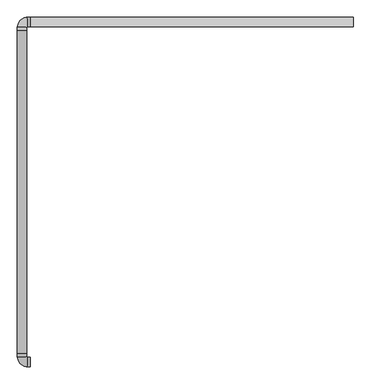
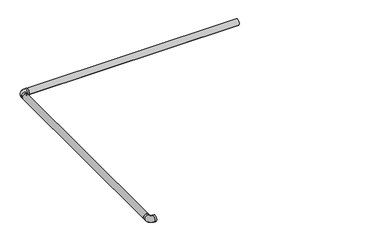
"""IFC4 building model written with IfcOpenShell, lengths in millimetres: light fixture geometry."""

from ifc_helpers import new_model, si_unit, point, frame, frame_2d, origin, place, context, project, spatial, polyline, circle_curve, ellipse_curve, trimmed, segment, composite_curve, outline, extrude, source, transform, mapped, element, save
from ifc_brep_helpers import plane_surface, cylinder_surface, revolved_surface, advanced_brep


def light_fixture_586c7e4f(model_context):
    return source(origin(), model_context, "Body", "SolidModel", [
        advanced_brep(
        [(13.25, -69.5, 52.9333396), (13.25, -69.5, 57.259212), (9.695913, -69.5, 57.259212), (9.695913, -69.5, 58.785971), (15.4937425, -69.5, 58.785971), (15.4937425, -69.5, 64.4273482), (34.5062575, -69.5, 64.4273482), (34.5062575, -69.5, 58.785971), (40.304087, -69.5, 58.785971), (40.304087, -69.5, 57.259212), (36.75, -69.5, 57.259212), (36.75, -69.5, 52.9333396), (70.5, -126.75, 52.9333396), (70.5, -103.25, 52.9333396), (70.5, -103.25, 57.259212), (70.5, -99.695913, 57.259212), (70.5, -99.695913, 58.785971), (70.5, -105.4937425, 58.785971), (70.5, -105.4937425, 64.4273482), (70.5, -124.5062575, 64.4273482), (70.5, -124.5062575, 58.785971), (70.5, -130.304087, 58.785971), (70.5, -130.304087, 57.259212), (70.5, -126.75, 57.259212), (36.75, -85.0, 52.9333396), (13.25, -85.0, 52.9333396), (36.75, -85.0, 57.259212), (40.304087, -85.0, 57.259212), (55.0, -99.695913, 57.259212), (55.0, -103.25, 57.259212), (40.304087, -85.0, 58.785971), (34.5062575, -85.0, 58.785971), (55.0, -105.4937425, 58.785971), (55.0, -99.695913, 58.785971), (34.5062575, -85.0, 64.4273482), (15.4937425, -85.0, 64.4273482), (55.0, -124.5062575, 64.4273482), (55.0, -105.4937425, 64.4273482), (15.4937425, -85.0, 58.785971), (9.695913, -85.0, 58.785971), (55.0, -130.304087, 58.785971), (55.0, -124.5062575, 58.785971), (9.695913, -85.0, 57.259212), (13.25, -85.0, 57.259212), (55.0, -126.75, 57.259212), (55.0, -130.304087, 57.259212), (55.0, -126.75, 52.9333396), (55.0, -103.25, 52.9333396)],
        [
            (0, 1),
            (1, 2),
            (2, 3),
            (3, 4),
            (4, 5),
            (5, 6),
            (6, 7),
            (7, 8),
            (8, 9),
            (9, 10),
            (10, 11),
            (11, 0, circle_curve(frame((25.0, -69.5, 75.0), z_axis=(0.0, 1.0, 0.0), x_axis=(1.0, 0.0, 0.0)), 25.0)),
            (12, 13, circle_curve(frame((70.5, -115.0, 75.0), z_axis=(1.0, 0.0, 0.0), x_axis=(0.0, 1.0, 0.0)), 25.0)),
            (13, 14),
            (14, 15),
            (15, 16),
            (16, 17),
            (17, 18),
            (18, 19),
            (19, 20),
            (20, 21),
            (21, 22),
            (22, 23),
            (23, 12),
            (11, 24),
            (24, 25, circle_curve(frame((25.0, -85.0, 75.0), z_axis=(0.0, 1.0, 0.0), x_axis=(1.0, 0.0, 0.0)), 25.0)),
            (25, 0),
            (10, 26),
            (26, 24),
            (9, 27),
            (27, 28, circle_curve(frame((55.0, -85.0, 57.259212), z_axis=(0.0, 0.0, 1.0), x_axis=(-1.0, 0.0, 0.0)), 14.695913)),
            (28, 15),
            (14, 29),
            (29, 26, circle_curve(frame((55.0, -85.0, 57.259212), z_axis=(0.0, 0.0, -1.0), x_axis=(-1.0, 0.0, 0.0)), 18.25)),
            (8, 30),
            (30, 27),
            (7, 31),
            (31, 32, circle_curve(frame((55.0, -85.0, 58.785971), z_axis=(0.0, 0.0, 1.0), x_axis=(-1.0, 0.0, 0.0)), 20.4937425)),
            (32, 17),
            (16, 33),
            (33, 30, circle_curve(frame((55.0, -85.0, 58.785971), z_axis=(0.0, 0.0, -1.0), x_axis=(-1.0, 0.0, 0.0)), 14.695913)),
            (6, 34),
            (34, 31),
            (5, 35),
            (35, 36, circle_curve(frame((55.0, -85.0, 64.4273482), z_axis=(0.0, 0.0, 1.0), x_axis=(-1.0, 0.0, 0.0)), 39.5062575)),
            (36, 19),
            (18, 37),
            (37, 34, circle_curve(frame((55.0, -85.0, 64.4273482), z_axis=(0.0, 0.0, -1.0), x_axis=(-1.0, 0.0, 0.0)), 20.4937425)),
            (4, 38),
            (38, 35),
            (3, 39),
            (39, 40, circle_curve(frame((55.0, -85.0, 58.785971), z_axis=(0.0, 0.0, 1.0), x_axis=(-1.0, 0.0, 0.0)), 45.304087)),
            (40, 21),
            (20, 41),
            (41, 38, circle_curve(frame((55.0, -85.0, 58.785971), z_axis=(0.0, 0.0, -1.0), x_axis=(-1.0, 0.0, 0.0)), 39.5062575)),
            (2, 42),
            (42, 39),
            (1, 43),
            (43, 44, circle_curve(frame((55.0, -85.0, 57.259212), z_axis=(0.0, 0.0, 1.0), x_axis=(-1.0, 0.0, 0.0)), 41.75)),
            (44, 23),
            (22, 45),
            (45, 42, circle_curve(frame((55.0, -85.0, 57.259212), z_axis=(0.0, 0.0, -1.0), x_axis=(-1.0, 0.0, 0.0)), 45.304087)),
            (25, 43),
            (46, 25, circle_curve(frame((55.0, -85.0, 52.9333396), z_axis=(0.0, 0.0, -1.0), x_axis=(-1.0, 0.0, 0.0)), 41.75)),
            (24, 47, circle_curve(frame((55.0, -85.0, 52.9333396), z_axis=(0.0, 0.0, 1.0), x_axis=(-1.0, 0.0, 0.0)), 18.25)),
            (47, 46, circle_curve(frame((55.0, -115.0, 75.0), z_axis=(-1.0, 0.0, 0.0), x_axis=(0.0, 1.0, 0.0)), 25.0)),
            (29, 47),
            (33, 28),
            (37, 32),
            (41, 36),
            (45, 40),
            (46, 44),
            (47, 13),
            (12, 46),
        ],
        [
            plane_surface(frame((25.0, -69.5, 50.0), z_axis=(0.0, 1.0, 0.0), x_axis=(0.0, 0.0, 1.0))),
            plane_surface(frame((70.5, -115.0, 50.0), z_axis=(1.0, 0.0, 0.0), x_axis=(0.0, 0.0, 1.0))),
            cylinder_surface(frame((25.0, -69.5, 75.0), z_axis=(0.0, 1.0, 0.0), x_axis=(1.0, 0.0, 0.0)), 25.0),
            plane_surface(frame((36.75, -69.5, 57.259212), z_axis=(1.0, 0.0, 0.0), x_axis=(0.0, -1.0, 0.0))),
            plane_surface(frame((40.304087, -69.5, 57.259212), z_axis=(0.0, 0.0, -1.0), x_axis=(0.0, -1.0, 0.0))),
            plane_surface(frame((40.304087, -69.5, 58.785971), z_axis=(1.0, 0.0, 0.0), x_axis=(0.0, -1.0, 0.0))),
            plane_surface(frame((34.5062575, -69.5, 58.785971), z_axis=(0.0, 0.0, 1.0), x_axis=(0.0, -1.0, 0.0))),
            plane_surface(frame((34.5062575, -69.5, 64.4273482), z_axis=(1.0, 0.0, 0.0), x_axis=(0.0, -1.0, 0.0))),
            plane_surface(frame((15.4937425, -69.5, 64.4273482), z_axis=(0.0, 0.0, 1.0), x_axis=(0.0, -1.0, 0.0))),
            plane_surface(frame((15.4937425, -69.5, 58.785971), z_axis=(-1.0, 0.0, 0.0), x_axis=(0.0, -1.0, 0.0))),
            plane_surface(frame((9.695913, -69.5, 58.785971), z_axis=(0.0, 0.0, 1.0), x_axis=(0.0, -1.0, 0.0))),
            plane_surface(frame((9.695913, -69.5, 57.259212), z_axis=(-1.0, 0.0, 0.0), x_axis=(0.0, -1.0, 0.0))),
            plane_surface(frame((13.25, -69.5, 57.259212), z_axis=(0.0, 0.0, -1.0), x_axis=(0.0, -1.0, 0.0))),
            plane_surface(frame((13.25, -69.5, 52.9333396), z_axis=(-1.0, 0.0, 0.0), x_axis=(0.0, -1.0, 0.0))),
            revolved_surface(trimmed(ellipse_curve(frame((25.0, -85.0, 75.0), z_axis=(0.0, 1.0, 0.0), x_axis=(1.0, 0.0, 0.0)), 25.0, 25.0), [point((36.75, -85.0, 52.9333396))], [point((13.25, -85.0, 52.9333396))], True, "CARTESIAN"), (55.0, -85.0, 50.0), (0.0, 0.0, 1.0)),
            revolved_surface(polyline([(36.75, -85.0, 57.259212), (36.75, -85.0, 52.9333396)]), (55.0, -85.0, 50.0), (0.0, 0.0, 1.0)),
            revolved_surface(polyline([(40.304087, -85.0, 58.785971), (40.304087, -85.0, 57.259212)]), (55.0, -85.0, 50.0), (0.0, 0.0, 1.0)),
            revolved_surface(polyline([(34.506257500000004, -85.0, 64.4273482), (34.506257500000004, -85.0, 58.785971)]), (55.0, -85.0, 50.0), (0.0, 0.0, 1.0)),
            cylinder_surface(frame((55.0, -85.0, 50.0), z_axis=(0.0, 0.0, 1.0), x_axis=(-1.0, 0.0, 0.0)), 39.5062575),
            cylinder_surface(frame((55.0, -85.0, 50.0), z_axis=(0.0, 0.0, 1.0), x_axis=(-1.0, 0.0, 0.0)), 45.304087),
            cylinder_surface(frame((55.0, -85.0, 50.0), z_axis=(0.0, 0.0, 1.0), x_axis=(-1.0, 0.0, 0.0)), 41.75),
            cylinder_surface(frame((55.0, -115.0, 75.0), z_axis=(-1.0, 0.0, 0.0), x_axis=(0.0, 1.0, 0.0)), 25.0),
            plane_surface(frame((55.0, -103.25, 57.259212), z_axis=(0.0, 1.0, 0.0), x_axis=(1.0, 0.0, 0.0))),
            plane_surface(frame((55.0, -99.695913, 58.785971), z_axis=(0.0, 1.0, 0.0), x_axis=(1.0, 0.0, 0.0))),
            plane_surface(frame((55.0, -105.4937425, 64.4273482), z_axis=(0.0, 1.0, 0.0), x_axis=(1.0, 0.0, 0.0))),
            plane_surface(frame((55.0, -124.5062575, 58.785971), z_axis=(0.0, -1.0, 0.0), x_axis=(1.0, 0.0, 0.0))),
            plane_surface(frame((55.0, -130.304087, 57.259212), z_axis=(0.0, -1.0, 0.0), x_axis=(1.0, 0.0, 0.0))),
            plane_surface(frame((55.0, -126.75, 52.9333396), z_axis=(0.0, -1.0, 0.0), x_axis=(1.0, 0.0, 0.0))),
        ],
        [
            (0, [[1, 2, 3, 4, 5, 6, 7, 8, 9, 10, 11, 12]]),
            (1, [[13, 14, 15, 16, 17, 18, 19, 20, 21, 22, 23, 24]]),
            (2, [[-12, 25, 26, 27]]),
            (3, [[-11, 28, 29, -25]]),
            (4, [[-10, 30, 31, 32, -15, 33, 34, -28]]),
            (5, [[-9, 35, 36, -30]]),
            (6, [[-8, 37, 38, 39, -17, 40, 41, -35]]),
            (7, [[-7, 42, 43, -37]]),
            (8, [[-6, 44, 45, 46, -19, 47, 48, -42]]),
            (9, [[-5, 49, 50, -44]]),
            (10, [[-4, 51, 52, 53, -21, 54, 55, -49]]),
            (11, [[-3, 56, 57, -51]]),
            (12, [[-2, 58, 59, 60, -23, 61, 62, -56]]),
            (13, [[-1, -27, 63, -58]]),
            (14, [[64, -26, 65, 66]]),
            (15, [[-65, -29, -34, 67]]),
            (16, [[-31, -36, -41, 68]]),
            (17, [[-38, -43, -48, 69]]),
            (18, [[-45, -50, -55, 70]]),
            (19, [[-52, -57, -62, 71]]),
            (20, [[-59, -63, -64, 72]]),
            (21, [[-66, 73, -13, 74]]),
            (22, [[-67, -33, -14, -73]]),
            (23, [[-68, -40, -16, -32]]),
            (24, [[-69, -47, -18, -39]]),
            (25, [[-70, -54, -20, -46]]),
            (26, [[-71, -61, -22, -53]]),
            (27, [[-72, -74, -24, -60]]),
        ],
    ),
        advanced_brep(
        [(36.75, -69.5, 52.9333396), (36.75, -69.5, 57.259212), (38.667754, -69.5, 57.259212), (38.667754, -69.5, 55.8288843), (40.617754, -69.5, 57.2440748), (40.617754, -69.5, 59.244074), (37.667754, -69.5, 59.244074), (37.667754, -69.5, 60.744074), (42.2779794, -69.5, 60.744074), (7.7220206, -69.5, 60.744074), (12.332246, -69.5, 60.744074), (12.332246, -69.5, 59.244074), (9.382246, -69.5, 59.244074), (9.382246, -69.5, 57.2440748), (11.332246, -69.5, 55.8288843), (11.332246, -69.5, 57.259212), (13.25, -69.5, 57.259212), (13.25, -69.5, 52.9333396), (70.5, -103.25, 52.9333396), (70.5, -126.75, 52.9333396), (70.5, -126.75, 57.259212), (70.5, -128.667754, 57.259212), (70.5, -128.667754, 55.8288843), (70.5, -130.617754, 57.2440748), (70.5, -130.617754, 59.244074), (70.5, -127.667754, 59.244074), (70.5, -127.667754, 60.744074), (70.5, -132.2779794, 60.744074), (70.5, -97.7220206, 60.744074), (70.5, -102.332246, 60.744074), (70.5, -102.332246, 59.244074), (70.5, -99.382246, 59.244074), (70.5, -99.382246, 57.2440748), (70.5, -101.332246, 55.8288843), (70.5, -101.332246, 57.259212), (70.5, -103.25, 57.259212), (13.25, -85.0, 52.9333396), (36.75, -85.0, 52.9333396), (13.25, -85.0, 57.259212), (11.332246, -85.0, 57.259212), (55.0, -128.667754, 57.259212), (55.0, -126.75, 57.259212), (11.332246, -85.0, 55.8288843), (9.382246, -85.0, 57.2440748), (9.382246, -85.0, 59.244074), (12.332246, -85.0, 59.244074), (55.0, -127.667754, 59.244074), (55.0, -130.617754, 59.244074), (12.332246, -85.0, 60.744074), (7.7220206, -85.0, 60.744074), (55.0, -132.2779794, 60.744074), (55.0, -127.667754, 60.744074), (42.2779794, -85.0, 60.744074), (37.667754, -85.0, 60.744074), (55.0, -102.332246, 60.744074), (55.0, -97.7220206, 60.744074), (37.667754, -85.0, 59.244074), (40.617754, -85.0, 59.244074), (55.0, -99.382246, 59.244074), (55.0, -102.332246, 59.244074), (40.617754, -85.0, 57.2440748), (38.667754, -85.0, 55.8288843), (38.667754, -85.0, 57.259212), (36.75, -85.0, 57.259212), (55.0, -103.25, 57.259212), (55.0, -101.332246, 57.259212), (55.0, -103.25, 52.9333396), (55.0, -126.75, 52.9333396), (55.0, -128.667754, 55.8288843), (55.0, -130.617754, 57.2440748), (55.0, -99.382246, 57.2440748), (55.0, -101.332246, 55.8288843)],
        [
            (0, 1),
            (1, 2),
            (2, 3),
            (3, 4),
            (4, 5),
            (5, 6),
            (6, 7),
            (7, 8),
            (8, 9, circle_curve(frame((25.0, -69.5, 75.0), z_axis=(0.0, -1.0, 0.0), x_axis=(1.0, 0.0, 0.0)), 22.4)),
            (9, 10),
            (10, 11),
            (11, 12),
            (12, 13),
            (13, 14),
            (14, 15),
            (15, 16),
            (16, 17),
            (17, 0, circle_curve(frame((25.0, -69.5, 75.0), z_axis=(0.0, 1.0, 0.0), x_axis=(1.0, 0.0, 0.0)), 25.0)),
            (18, 19, circle_curve(frame((70.5, -115.0, 75.0), z_axis=(1.0, 0.0, 0.0), x_axis=(0.0, 1.0, 0.0)), 25.0)),
            (19, 20),
            (20, 21),
            (21, 22),
            (22, 23),
            (23, 24),
            (24, 25),
            (25, 26),
            (26, 27),
            (27, 28, circle_curve(frame((70.5, -115.0, 75.0), z_axis=(-1.0, 0.0, 0.0), x_axis=(0.0, 1.0, 0.0)), 22.4)),
            (28, 29),
            (29, 30),
            (30, 31),
            (31, 32),
            (32, 33),
            (33, 34),
            (34, 35),
            (35, 18),
            (17, 36),
            (36, 37, circle_curve(frame((25.0, -85.0, 75.0), z_axis=(0.0, 1.0, 0.0), x_axis=(1.0, 0.0, 0.0)), 25.0)),
            (37, 0),
            (16, 38),
            (38, 36),
            (15, 39),
            (39, 40, circle_curve(frame((55.0, -85.0, 57.259212), z_axis=(0.0, 0.0, 1.0), x_axis=(-1.0, 0.0, 0.0)), 43.667754)),
            (40, 21),
            (20, 41),
            (41, 38, circle_curve(frame((55.0, -85.0, 57.259212), z_axis=(0.0, 0.0, -1.0), x_axis=(-1.0, 0.0, 0.0)), 41.75)),
            (14, 42),
            (42, 39),
            (13, 43),
            (43, 42),
            (12, 44),
            (44, 43),
            (11, 45),
            (45, 46, circle_curve(frame((55.0, -85.0, 59.244074), z_axis=(0.0, 0.0, 1.0), x_axis=(-1.0, 0.0, 0.0)), 42.667754)),
            (46, 25),
            (24, 47),
            (47, 44, circle_curve(frame((55.0, -85.0, 59.244074), z_axis=(0.0, 0.0, -1.0), x_axis=(-1.0, 0.0, 0.0)), 45.617754)),
            (10, 48),
            (48, 45),
            (9, 49),
            (49, 50, circle_curve(frame((55.0, -85.0, 60.744074), z_axis=(0.0, 0.0, 1.0), x_axis=(-1.0, 0.0, 0.0)), 47.2779794)),
            (50, 27),
            (26, 51),
            (51, 48, circle_curve(frame((55.0, -85.0, 60.744074), z_axis=(0.0, 0.0, -1.0), x_axis=(-1.0, 0.0, 0.0)), 42.667754)),
            (8, 52),
            (52, 49, circle_curve(frame((25.0, -85.0, 75.0), z_axis=(0.0, -1.0, 0.0), x_axis=(1.0, 0.0, 0.0)), 22.4)),
            (7, 53),
            (53, 54, circle_curve(frame((55.0, -85.0, 60.744074), z_axis=(0.0, 0.0, 1.0), x_axis=(-1.0, 0.0, 0.0)), 17.332246)),
            (54, 29),
            (28, 55),
            (55, 52, circle_curve(frame((55.0, -85.0, 60.744074), z_axis=(0.0, 0.0, -1.0), x_axis=(-1.0, 0.0, 0.0)), 12.7220206)),
            (6, 56),
            (56, 53),
            (5, 57),
            (57, 58, circle_curve(frame((55.0, -85.0, 59.244074), z_axis=(0.0, 0.0, 1.0), x_axis=(-1.0, 0.0, 0.0)), 14.382246)),
            (58, 31),
            (30, 59),
            (59, 56, circle_curve(frame((55.0, -85.0, 59.244074), z_axis=(0.0, 0.0, -1.0), x_axis=(-1.0, 0.0, 0.0)), 17.332246)),
            (4, 60),
            (60, 57),
            (3, 61),
            (61, 60),
            (2, 62),
            (62, 61),
            (1, 63),
            (63, 64, circle_curve(frame((55.0, -85.0, 57.259212), z_axis=(0.0, 0.0, 1.0), x_axis=(-1.0, 0.0, 0.0)), 18.25)),
            (64, 35),
            (34, 65),
            (65, 62, circle_curve(frame((55.0, -85.0, 57.259212), z_axis=(0.0, 0.0, -1.0), x_axis=(-1.0, 0.0, 0.0)), 16.332246)),
            (37, 63),
            (66, 37, circle_curve(frame((55.0, -85.0, 52.9333396), z_axis=(0.0, 0.0, -1.0), x_axis=(-1.0, 0.0, 0.0)), 18.25)),
            (36, 67, circle_curve(frame((55.0, -85.0, 52.9333396), z_axis=(0.0, 0.0, 1.0), x_axis=(-1.0, 0.0, 0.0)), 41.75)),
            (67, 66, circle_curve(frame((55.0, -115.0, 75.0), z_axis=(-1.0, 0.0, 0.0), x_axis=(0.0, 1.0, 0.0)), 25.0)),
            (41, 67),
            (42, 68, circle_curve(frame((55.0, -85.0, 55.8288843), z_axis=(0.0, 0.0, 1.0), x_axis=(-1.0, 0.0, 0.0)), 43.667754)),
            (68, 40),
            (43, 69, circle_curve(frame((55.0, -85.0, 57.2440748), z_axis=(0.0, 0.0, 1.0), x_axis=(-1.0, 0.0, 0.0)), 45.617754)),
            (69, 68),
            (47, 69),
            (51, 46),
            (55, 50, circle_curve(frame((55.0, -115.0, 75.0), z_axis=(1.0, 0.0, 0.0), x_axis=(0.0, 1.0, 0.0)), 22.4)),
            (59, 54),
            (60, 70, circle_curve(frame((55.0, -85.0, 57.2440748), z_axis=(0.0, 0.0, 1.0), x_axis=(-1.0, 0.0, 0.0)), 14.382246)),
            (70, 58),
            (61, 71, circle_curve(frame((55.0, -85.0, 55.8288843), z_axis=(0.0, 0.0, 1.0), x_axis=(-1.0, 0.0, 0.0)), 16.332246)),
            (71, 70),
            (65, 71),
            (66, 64),
            (67, 19),
            (18, 66),
            (68, 22),
            (69, 23),
            (70, 32),
            (71, 33),
        ],
        [
            plane_surface(frame((25.0, -69.5, 50.0), z_axis=(0.0, 1.0, 0.0), x_axis=(0.0, 0.0, 1.0))),
            plane_surface(frame((70.5, -115.0, 50.0), z_axis=(1.0, 0.0, 0.0), x_axis=(0.0, 0.0, 1.0))),
            cylinder_surface(frame((25.0, -69.5, 75.0), z_axis=(0.0, 1.0, 0.0), x_axis=(1.0, 0.0, 0.0)), 25.0),
            plane_surface(frame((13.25, -69.5, 57.259212), z_axis=(1.0, 0.0, 0.0), x_axis=(0.0, -1.0, 0.0))),
            plane_surface(frame((11.332246, -69.5, 57.259212), z_axis=(0.0, 0.0, 1.0), x_axis=(0.0, -1.0, 0.0))),
            plane_surface(frame((11.332246, -69.5, 55.8288843), z_axis=(-1.0, 0.0, 0.0), x_axis=(0.0, -1.0, 0.0))),
            plane_surface(frame((9.382246, -69.5, 57.2440748), z_axis=(0.5873593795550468, 0.0, 0.8093262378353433), x_axis=(0.0, -1.0, 0.0))),
            plane_surface(frame((9.382246, -69.5, 59.244074), z_axis=(1.0, 0.0, 0.0), x_axis=(0.0, -1.0, 0.0))),
            plane_surface(frame((12.332246, -69.5, 59.244074), z_axis=(0.0, 0.0, -1.0), x_axis=(0.0, -1.0, 0.0))),
            plane_surface(frame((12.332246, -69.5, 60.744074), z_axis=(1.0, 0.0, 0.0), x_axis=(0.0, -1.0, 0.0))),
            plane_surface(frame((7.7220206, -69.5, 60.744074), z_axis=(0.0, 0.0, 1.0), x_axis=(0.0, -1.0, 0.0))),
            revolved_surface(polyline([(47.4, -85.0, 75.0), (47.4, -69.5, 75.0)]), (25.0, -69.5, 75.0), (0.0, -1.0, 0.0)),
            plane_surface(frame((37.667754, -69.5, 60.744074), z_axis=(0.0, 0.0, 1.0), x_axis=(0.0, -1.0, 0.0))),
            plane_surface(frame((37.667754, -69.5, 59.244074), z_axis=(-1.0, 0.0, 0.0), x_axis=(0.0, -1.0, 0.0))),
            plane_surface(frame((40.617754, -69.5, 59.244074), z_axis=(0.0, 0.0, -1.0), x_axis=(0.0, -1.0, 0.0))),
            plane_surface(frame((40.617754, -69.5, 57.2440748), z_axis=(-1.0, 0.0, 0.0), x_axis=(0.0, -1.0, 0.0))),
            plane_surface(frame((38.667754, -69.5, 55.8288843), z_axis=(-0.5873593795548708, 0.0, 0.8093262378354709), x_axis=(0.0, -1.0, 0.0))),
            plane_surface(frame((38.667754, -69.5, 57.259212), z_axis=(1.0, 0.0, 0.0), x_axis=(0.0, -1.0, 0.0))),
            plane_surface(frame((36.75, -69.5, 57.259212), z_axis=(0.0, 0.0, 1.0), x_axis=(0.0, -1.0, 0.0))),
            plane_surface(frame((36.75, -69.5, 52.9333396), z_axis=(-1.0, 0.0, 0.0), x_axis=(0.0, -1.0, 0.0))),
            revolved_surface(trimmed(ellipse_curve(frame((25.0, -85.0, 75.0), z_axis=(0.0, 1.0, 0.0), x_axis=(1.0, 0.0, 0.0)), 25.0, 25.0), [point((13.25, -85.0, 52.9333396))], [point((36.75, -85.0, 52.9333396))], True, "CARTESIAN"), (55.0, -85.0, 50.0), (0.0, 0.0, 1.0)),
            revolved_surface(polyline([(13.25, -85.0, 57.259212), (13.25, -85.0, 52.9333396)]), (55.0, -85.0, 50.0), (0.0, 0.0, 1.0)),
            cylinder_surface(frame((55.0, -85.0, 50.0), z_axis=(0.0, 0.0, 1.0), x_axis=(-1.0, 0.0, 0.0)), 43.667754),
            revolved_surface(polyline([(9.382246, -85.0, 57.2440748), (11.332246, -85.0, 55.8288843)]), (55.0, -85.0, 50.0), (0.0, 0.0, 1.0)),
            revolved_surface(polyline([(9.382246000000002, -85.0, 59.244074), (9.382246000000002, -85.0, 57.2440748)]), (55.0, -85.0, 50.0), (0.0, 0.0, 1.0)),
            revolved_surface(polyline([(12.332245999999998, -85.0, 60.744074), (12.332245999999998, -85.0, 59.244074)]), (55.0, -85.0, 50.0), (0.0, 0.0, 1.0)),
            revolved_surface(trimmed(ellipse_curve(frame((25.0, -85.0, 75.0), z_axis=(0.0, -1.0, 0.0), x_axis=(1.0, 0.0, 0.0)), 22.4, 22.4), [point((42.2779794, -85.0, 60.744074))], [point((7.7220206, -85.0, 60.744074))], True, "CARTESIAN"), (55.0, -85.0, 50.0), (0.0, 0.0, 1.0)),
            cylinder_surface(frame((55.0, -85.0, 50.0), z_axis=(0.0, 0.0, 1.0), x_axis=(-1.0, 0.0, 0.0)), 17.332246),
            cylinder_surface(frame((55.0, -85.0, 50.0), z_axis=(0.0, 0.0, 1.0), x_axis=(-1.0, 0.0, 0.0)), 14.382246),
            revolved_surface(polyline([(38.667754, -85.0, 55.8288843), (40.617754, -85.0, 57.2440748)]), (55.0, -85.0, 50.0), (0.0, 0.0, 1.0)),
            revolved_surface(polyline([(38.667754, -85.0, 57.259212), (38.667754, -85.0, 55.8288843)]), (55.0, -85.0, 50.0), (0.0, 0.0, 1.0)),
            cylinder_surface(frame((55.0, -85.0, 50.0), z_axis=(0.0, 0.0, 1.0), x_axis=(-1.0, 0.0, 0.0)), 18.25),
            cylinder_surface(frame((55.0, -115.0, 75.0), z_axis=(-1.0, 0.0, 0.0), x_axis=(0.0, 1.0, 0.0)), 25.0),
            plane_surface(frame((55.0, -126.75, 57.259212), z_axis=(0.0, 1.0, 0.0), x_axis=(1.0, 0.0, 0.0))),
            plane_surface(frame((55.0, -128.667754, 55.8288843), z_axis=(0.0, -1.0, 0.0), x_axis=(1.0, 0.0, 0.0))),
            plane_surface(frame((55.0, -130.617754, 57.2440748), z_axis=(0.0, 0.5873593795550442, 0.8093262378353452), x_axis=(1.0, 0.0, 0.0))),
            plane_surface(frame((55.0, -130.617754, 59.244074), z_axis=(0.0, 1.0, 0.0), x_axis=(1.0, 0.0, 0.0))),
            plane_surface(frame((55.0, -127.667754, 60.744074), z_axis=(0.0, 1.0, 0.0), x_axis=(1.0, 0.0, 0.0))),
            revolved_surface(polyline([(70.5, -92.6, 75.0), (55.0, -92.6, 75.0)]), (55.0, -115.0, 75.0), (1.0, 0.0, 0.0)),
            plane_surface(frame((55.0, -102.332246, 59.244074), z_axis=(0.0, -1.0, 0.0), x_axis=(1.0, 0.0, 0.0))),
            plane_surface(frame((55.0, -99.382246, 57.2440748), z_axis=(0.0, -1.0, 0.0), x_axis=(1.0, 0.0, 0.0))),
            plane_surface(frame((55.0, -101.332246, 55.8288843), z_axis=(0.0, -0.5873593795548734, 0.809326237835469), x_axis=(1.0, 0.0, 0.0))),
            plane_surface(frame((55.0, -101.332246, 57.259212), z_axis=(0.0, 1.0, 0.0), x_axis=(1.0, 0.0, 0.0))),
            plane_surface(frame((55.0, -103.25, 52.9333396), z_axis=(0.0, -1.0, 0.0), x_axis=(1.0, 0.0, 0.0))),
        ],
        [
            (0, [[1, 2, 3, 4, 5, 6, 7, 8, 9, 10, 11, 12, 13, 14, 15, 16, 17, 18]]),
            (1, [[19, 20, 21, 22, 23, 24, 25, 26, 27, 28, 29, 30, 31, 32, 33, 34, 35, 36]]),
            (2, [[-18, 37, 38, 39]]),
            (3, [[-17, 40, 41, -37]]),
            (4, [[-16, 42, 43, 44, -21, 45, 46, -40]]),
            (5, [[-15, 47, 48, -42]]),
            (6, [[-14, 49, 50, -47]]),
            (7, [[-13, 51, 52, -49]]),
            (8, [[-12, 53, 54, 55, -25, 56, 57, -51]]),
            (9, [[-11, 58, 59, -53]]),
            (10, [[-10, 60, 61, 62, -27, 63, 64, -58]]),
            (11, [[-9, 65, 66, -60]]),
            (12, [[-8, 67, 68, 69, -29, 70, 71, -65]]),
            (13, [[-7, 72, 73, -67]]),
            (14, [[-6, 74, 75, 76, -31, 77, 78, -72]]),
            (15, [[-5, 79, 80, -74]]),
            (16, [[-4, 81, 82, -79]]),
            (17, [[-3, 83, 84, -81]]),
            (18, [[-2, 85, 86, 87, -35, 88, 89, -83]]),
            (19, [[-1, -39, 90, -85]]),
            (20, [[91, -38, 92, 93]]),
            (21, [[-92, -41, -46, 94]]),
            (22, [[-43, -48, 95, 96]]),
            (23, [[-95, -50, 97, 98]]),
            (24, [[-97, -52, -57, 99]]),
            (25, [[-54, -59, -64, 100]]),
            (26, [[-61, -66, -71, 101]]),
            (27, [[-68, -73, -78, 102]]),
            (28, [[-75, -80, 103, 104]]),
            (29, [[-103, -82, 105, 106]]),
            (30, [[-105, -84, -89, 107]]),
            (31, [[-86, -90, -91, 108]]),
            (32, [[-93, 109, -19, 110]]),
            (33, [[-94, -45, -20, -109]]),
            (34, [[-96, 111, -22, -44]]),
            (35, [[-98, 112, -23, -111]]),
            (36, [[-99, -56, -24, -112]]),
            (37, [[-100, -63, -26, -55]]),
            (38, [[-101, -70, -28, -62]]),
            (39, [[-102, -77, -30, -69]]),
            (40, [[-104, 113, -32, -76]]),
            (41, [[-106, 114, -33, -113]]),
            (42, [[-107, -88, -34, -114]]),
            (43, [[-108, -110, -36, -87]]),
        ],
    ),
        advanced_brep(
        [(13.25, 1700.5, 52.9333396), (36.75, 1700.5, 52.9333396), (36.75, 1700.5, 57.259212), (40.304087, 1700.5, 57.259212), (40.304087, 1700.5, 58.785971), (34.5062575, 1700.5, 58.785971), (34.5062575, 1700.5, 64.4273482), (15.4937425, 1700.5, 64.4273482), (15.4937425, 1700.5, 58.785971), (9.695913, 1700.5, 58.785971), (9.695913, 1700.5, 57.259212), (13.25, 1700.5, 57.259212), (70.5, 1757.75, 52.9333396), (70.5, 1757.75, 57.259212), (70.5, 1761.304087, 57.259212), (70.5, 1761.304087, 58.785971), (70.5, 1755.5062575, 58.785971), (70.5, 1755.5062575, 64.4273482), (70.5, 1736.4937425, 64.4273482), (70.5, 1736.4937425, 58.785971), (70.5, 1730.695913, 58.785971), (70.5, 1730.695913, 57.259212), (70.5, 1734.25, 57.259212), (70.5, 1734.25, 52.9333396), (13.25, 1716.0, 52.9333396), (36.75, 1716.0, 52.9333396), (36.75, 1716.0, 57.259212), (55.0, 1734.25, 57.259212), (55.0, 1730.695913, 57.259212), (40.304087, 1716.0, 57.259212), (40.304087, 1716.0, 58.785971), (55.0, 1730.695913, 58.785971), (55.0, 1736.4937425, 58.785971), (34.5062575, 1716.0, 58.785971), (34.5062575, 1716.0, 64.4273482), (55.0, 1736.4937425, 64.4273482), (55.0, 1755.5062575, 64.4273482), (15.4937425, 1716.0, 64.4273482), (15.4937425, 1716.0, 58.785971), (55.0, 1755.5062575, 58.785971), (55.0, 1761.304087, 58.785971), (9.695913, 1716.0, 58.785971), (9.695913, 1716.0, 57.259212), (55.0, 1761.304087, 57.259212), (55.0, 1757.75, 57.259212), (13.25, 1716.0, 57.259212), (55.0, 1734.25, 52.9333396), (55.0, 1757.75, 52.9333396)],
        [
            (0, 1, circle_curve(frame((25.0, 1700.5, 75.0), z_axis=(0.0, -1.0, 0.0), x_axis=(-1.0, 0.0, 0.0)), 25.0)),
            (1, 2),
            (2, 3),
            (3, 4),
            (4, 5),
            (5, 6),
            (6, 7),
            (7, 8),
            (8, 9),
            (9, 10),
            (10, 11),
            (11, 0),
            (12, 13),
            (13, 14),
            (14, 15),
            (15, 16),
            (16, 17),
            (17, 18),
            (18, 19),
            (19, 20),
            (20, 21),
            (21, 22),
            (22, 23),
            (23, 12, circle_curve(frame((70.5, 1746.0, 75.0), z_axis=(1.0, 0.0, 0.0), x_axis=(0.0, 1.0, 0.0)), 25.0)),
            (0, 24),
            (24, 25, circle_curve(frame((25.0, 1716.0, 75.0), z_axis=(0.0, -1.0, 0.0), x_axis=(-1.0, 0.0, 0.0)), 25.0)),
            (25, 1),
            (25, 26),
            (26, 2),
            (26, 27, circle_curve(frame((55.0, 1716.0, 57.259212), z_axis=(0.0, 0.0, -1.0), x_axis=(-1.0, 0.0, 0.0)), 18.25)),
            (27, 22),
            (21, 28),
            (28, 29, circle_curve(frame((55.0, 1716.0, 57.259212), z_axis=(0.0, 0.0, 1.0), x_axis=(-1.0, 0.0, 0.0)), 14.695913)),
            (29, 3),
            (29, 30),
            (30, 4),
            (30, 31, circle_curve(frame((55.0, 1716.0, 58.785971), z_axis=(0.0, 0.0, -1.0), x_axis=(-1.0, 0.0, 0.0)), 14.695913)),
            (31, 20),
            (19, 32),
            (32, 33, circle_curve(frame((55.0, 1716.0, 58.785971), z_axis=(0.0, 0.0, 1.0), x_axis=(-1.0, 0.0, 0.0)), 20.4937425)),
            (33, 5),
            (33, 34),
            (34, 6),
            (34, 35, circle_curve(frame((55.0, 1716.0, 64.4273482), z_axis=(0.0, 0.0, -1.0), x_axis=(-1.0, 0.0, 0.0)), 20.4937425)),
            (35, 18),
            (17, 36),
            (36, 37, circle_curve(frame((55.0, 1716.0, 64.4273482), z_axis=(0.0, 0.0, 1.0), x_axis=(-1.0, 0.0, 0.0)), 39.5062575)),
            (37, 7),
            (37, 38),
            (38, 8),
            (38, 39, circle_curve(frame((55.0, 1716.0, 58.785971), z_axis=(0.0, 0.0, -1.0), x_axis=(-1.0, 0.0, 0.0)), 39.5062575)),
            (39, 16),
            (15, 40),
            (40, 41, circle_curve(frame((55.0, 1716.0, 58.785971), z_axis=(0.0, 0.0, 1.0), x_axis=(-1.0, 0.0, 0.0)), 45.304087)),
            (41, 9),
            (41, 42),
            (42, 10),
            (42, 43, circle_curve(frame((55.0, 1716.0, 57.259212), z_axis=(0.0, 0.0, -1.0), x_axis=(-1.0, 0.0, 0.0)), 45.304087)),
            (43, 14),
            (13, 44),
            (44, 45, circle_curve(frame((55.0, 1716.0, 57.259212), z_axis=(0.0, 0.0, 1.0), x_axis=(-1.0, 0.0, 0.0)), 41.75)),
            (45, 11),
            (45, 24),
            (46, 25, circle_curve(frame((55.0, 1716.0, 52.9333396), z_axis=(0.0, 0.0, 1.0), x_axis=(-1.0, 0.0, 0.0)), 18.25)),
            (24, 47, circle_curve(frame((55.0, 1716.0, 52.9333396), z_axis=(0.0, 0.0, -1.0), x_axis=(-1.0, 0.0, 0.0)), 41.75)),
            (47, 46, circle_curve(frame((55.0, 1746.0, 75.0), z_axis=(-1.0, 0.0, 0.0), x_axis=(0.0, 1.0, 0.0)), 25.0)),
            (46, 27),
            (28, 31),
            (32, 35),
            (36, 39),
            (40, 43),
            (44, 47),
            (47, 12),
            (23, 46),
        ],
        [
            plane_surface(frame((25.0, 1700.5, 50.0), z_axis=(0.0, -1.0, 0.0), x_axis=(0.0, 0.0, 1.0))),
            plane_surface(frame((70.5, 1746.0, 50.0), z_axis=(1.0, 0.0, 0.0), x_axis=(0.0, 0.0, 1.0))),
            cylinder_surface(frame((25.0, 1700.5, 75.0), z_axis=(0.0, -1.0, 0.0), x_axis=(-1.0, 0.0, 0.0)), 25.0),
            plane_surface(frame((36.75, 1700.5, 52.9333396), z_axis=(1.0, 0.0, 0.0), x_axis=(0.0, 1.0, 0.0))),
            plane_surface(frame((36.75, 1700.5, 57.259212), z_axis=(0.0, 0.0, -1.0), x_axis=(0.0, 1.0, 0.0))),
            plane_surface(frame((40.304087, 1700.5, 57.259212), z_axis=(1.0, 0.0, 0.0), x_axis=(0.0, 1.0, 0.0))),
            plane_surface(frame((40.304087, 1700.5, 58.785971), z_axis=(0.0, 0.0, 1.0), x_axis=(0.0, 1.0, 0.0))),
            plane_surface(frame((34.5062575, 1700.5, 58.785971), z_axis=(1.0, 0.0, 0.0), x_axis=(0.0, 1.0, 0.0))),
            plane_surface(frame((34.5062575, 1700.5, 64.4273482), z_axis=(0.0, 0.0, 1.0), x_axis=(0.0, 1.0, 0.0))),
            plane_surface(frame((15.4937425, 1700.5, 64.4273482), z_axis=(-1.0, 0.0, 0.0), x_axis=(0.0, 1.0, 0.0))),
            plane_surface(frame((15.4937425, 1700.5, 58.785971), z_axis=(0.0, 0.0, 1.0), x_axis=(0.0, 1.0, 0.0))),
            plane_surface(frame((9.695913, 1700.5, 58.785971), z_axis=(-1.0, 0.0, 0.0), x_axis=(0.0, 1.0, 0.0))),
            plane_surface(frame((9.695913, 1700.5, 57.259212), z_axis=(0.0, 0.0, -1.0), x_axis=(0.0, 1.0, 0.0))),
            plane_surface(frame((13.25, 1700.5, 57.259212), z_axis=(-1.0, 0.0, 0.0), x_axis=(0.0, 1.0, 0.0))),
            revolved_surface(trimmed(ellipse_curve(frame((25.0, 1716.0, 75.0), z_axis=(0.0, -1.0, 0.0), x_axis=(-1.0, 0.0, 0.0)), 25.0, 25.0), [point((13.25, 1716.0, 52.9333396))], [point((36.75, 1716.0, 52.9333396))], True, "CARTESIAN"), (55.0, 1716.0, 50.0), (0.0, 0.0, -1.0)),
            revolved_surface(polyline([(36.75, 1716.0, 52.9333396), (36.75, 1716.0, 57.259212)]), (55.0, 1716.0, 50.0), (0.0, 0.0, -1.0)),
            revolved_surface(polyline([(40.304087, 1716.0, 57.259212), (40.304087, 1716.0, 58.785971)]), (55.0, 1716.0, 50.0), (0.0, 0.0, -1.0)),
            revolved_surface(polyline([(34.506257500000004, 1716.0, 58.785971), (34.506257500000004, 1716.0, 64.4273482)]), (55.0, 1716.0, 50.0), (0.0, 0.0, -1.0)),
            cylinder_surface(frame((55.0, 1716.0, 50.0), z_axis=(0.0, 0.0, -1.0), x_axis=(-1.0, 0.0, 0.0)), 39.5062575),
            cylinder_surface(frame((55.0, 1716.0, 50.0), z_axis=(0.0, 0.0, -1.0), x_axis=(-1.0, 0.0, 0.0)), 45.304087),
            cylinder_surface(frame((55.0, 1716.0, 50.0), z_axis=(0.0, 0.0, -1.0), x_axis=(-1.0, 0.0, 0.0)), 41.75),
            cylinder_surface(frame((55.0, 1746.0, 75.0), z_axis=(-1.0, 0.0, 0.0), x_axis=(0.0, 1.0, 0.0)), 25.0),
            plane_surface(frame((55.0, 1734.25, 52.9333396), z_axis=(0.0, -1.0, 0.0), x_axis=(1.0, 0.0, 0.0))),
            plane_surface(frame((55.0, 1730.695913, 57.259212), z_axis=(0.0, -1.0, 0.0), x_axis=(1.0, 0.0, 0.0))),
            plane_surface(frame((55.0, 1736.4937425, 58.785971), z_axis=(0.0, -1.0, 0.0), x_axis=(1.0, 0.0, 0.0))),
            plane_surface(frame((55.0, 1755.5062575, 64.4273482), z_axis=(0.0, 1.0, 0.0), x_axis=(1.0, 0.0, 0.0))),
            plane_surface(frame((55.0, 1761.304087, 58.785971), z_axis=(0.0, 1.0, 0.0), x_axis=(1.0, 0.0, 0.0))),
            plane_surface(frame((55.0, 1757.75, 57.259212), z_axis=(0.0, 1.0, 0.0), x_axis=(1.0, 0.0, 0.0))),
        ],
        [
            (0, [[1, 2, 3, 4, 5, 6, 7, 8, 9, 10, 11, 12]]),
            (1, [[13, 14, 15, 16, 17, 18, 19, 20, 21, 22, 23, 24]]),
            (2, [[-1, 25, 26, 27]]),
            (3, [[-2, -27, 28, 29]]),
            (4, [[-3, -29, 30, 31, -22, 32, 33, 34]]),
            (5, [[-4, -34, 35, 36]]),
            (6, [[-5, -36, 37, 38, -20, 39, 40, 41]]),
            (7, [[-6, -41, 42, 43]]),
            (8, [[-7, -43, 44, 45, -18, 46, 47, 48]]),
            (9, [[-8, -48, 49, 50]]),
            (10, [[-9, -50, 51, 52, -16, 53, 54, 55]]),
            (11, [[-10, -55, 56, 57]]),
            (12, [[-11, -57, 58, 59, -14, 60, 61, 62]]),
            (13, [[-12, -62, 63, -25]]),
            (14, [[64, -26, 65, 66]]),
            (15, [[-30, -28, -64, 67]]),
            (16, [[-37, -35, -33, 68]]),
            (17, [[-44, -42, -40, 69]]),
            (18, [[-51, -49, -47, 70]]),
            (19, [[-58, -56, -54, 71]]),
            (20, [[-65, -63, -61, 72]]),
            (21, [[-66, 73, -24, 74]]),
            (22, [[-67, -74, -23, -31]]),
            (23, [[-68, -32, -21, -38]]),
            (24, [[-69, -39, -19, -45]]),
            (25, [[-70, -46, -17, -52]]),
            (26, [[-71, -53, -15, -59]]),
            (27, [[-72, -60, -13, -73]]),
        ],
    ),
        advanced_brep(
        [(36.75, 1700.5, 52.9333396), (13.25, 1700.5, 52.9333396), (13.25, 1700.5, 57.259212), (11.332246, 1700.5, 57.259212), (11.332246, 1700.5, 55.8288843), (9.382246, 1700.5, 57.2440748), (9.382246, 1700.5, 59.244074), (12.332246, 1700.5, 59.244074), (12.332246, 1700.5, 60.744074), (7.7220206, 1700.5, 60.744074), (42.2779794, 1700.5, 60.744074), (37.667754, 1700.5, 60.744074), (37.667754, 1700.5, 59.244074), (40.617754, 1700.5, 59.244074), (40.617754, 1700.5, 57.2440748), (38.667754, 1700.5, 55.8288843), (38.667754, 1700.5, 57.259212), (36.75, 1700.5, 57.259212), (70.5, 1734.25, 52.9333396), (70.5, 1734.25, 57.259212), (70.5, 1732.332246, 57.259212), (70.5, 1732.332246, 55.8288843), (70.5, 1730.382246, 57.2440748), (70.5, 1730.382246, 59.244074), (70.5, 1733.332246, 59.244074), (70.5, 1733.332246, 60.744074), (70.5, 1728.7220206, 60.744074), (70.5, 1763.2779794, 60.744074), (70.5, 1758.667754, 60.744074), (70.5, 1758.667754, 59.244074), (70.5, 1761.617754, 59.244074), (70.5, 1761.617754, 57.2440748), (70.5, 1759.667754, 55.8288843), (70.5, 1759.667754, 57.259212), (70.5, 1757.75, 57.259212), (70.5, 1757.75, 52.9333396), (36.75, 1716.0, 52.9333396), (13.25, 1716.0, 52.9333396), (13.25, 1716.0, 57.259212), (55.0, 1757.75, 57.259212), (55.0, 1759.667754, 57.259212), (11.332246, 1716.0, 57.259212), (11.332246, 1716.0, 55.8288843), (9.382246, 1716.0, 57.2440748), (9.382246, 1716.0, 59.244074), (55.0, 1761.617754, 59.244074), (55.0, 1758.667754, 59.244074), (12.332246, 1716.0, 59.244074), (12.332246, 1716.0, 60.744074), (55.0, 1758.667754, 60.744074), (55.0, 1763.2779794, 60.744074), (7.7220206, 1716.0, 60.744074), (42.2779794, 1716.0, 60.744074), (55.0, 1728.7220206, 60.744074), (55.0, 1733.332246, 60.744074), (37.667754, 1716.0, 60.744074), (37.667754, 1716.0, 59.244074), (55.0, 1733.332246, 59.244074), (55.0, 1730.382246, 59.244074), (40.617754, 1716.0, 59.244074), (40.617754, 1716.0, 57.2440748), (38.667754, 1716.0, 55.8288843), (38.667754, 1716.0, 57.259212), (55.0, 1732.332246, 57.259212), (55.0, 1734.25, 57.259212), (36.75, 1716.0, 57.259212), (55.0, 1757.75, 52.9333396), (55.0, 1734.25, 52.9333396), (55.0, 1759.667754, 55.8288843), (55.0, 1761.617754, 57.2440748), (55.0, 1730.382246, 57.2440748), (55.0, 1732.332246, 55.8288843)],
        [
            (0, 1, circle_curve(frame((25.0, 1700.5, 75.0), z_axis=(0.0, -1.0, 0.0), x_axis=(-1.0, 0.0, 0.0)), 25.0)),
            (1, 2),
            (2, 3),
            (3, 4),
            (4, 5),
            (5, 6),
            (6, 7),
            (7, 8),
            (8, 9),
            (9, 10, circle_curve(frame((25.0, 1700.5, 75.0), z_axis=(0.0, 1.0, 0.0), x_axis=(-1.0, 0.0, 0.0)), 22.4)),
            (10, 11),
            (11, 12),
            (12, 13),
            (13, 14),
            (14, 15),
            (15, 16),
            (16, 17),
            (17, 0),
            (18, 19),
            (19, 20),
            (20, 21),
            (21, 22),
            (22, 23),
            (23, 24),
            (24, 25),
            (25, 26),
            (26, 27, circle_curve(frame((70.5, 1746.0, 75.0), z_axis=(-1.0, 0.0, 0.0), x_axis=(0.0, 1.0, 0.0)), 22.4)),
            (27, 28),
            (28, 29),
            (29, 30),
            (30, 31),
            (31, 32),
            (32, 33),
            (33, 34),
            (34, 35),
            (35, 18, circle_curve(frame((70.5, 1746.0, 75.0), z_axis=(1.0, 0.0, 0.0), x_axis=(0.0, 1.0, 0.0)), 25.0)),
            (0, 36),
            (36, 37, circle_curve(frame((25.0, 1716.0, 75.0), z_axis=(0.0, -1.0, 0.0), x_axis=(-1.0, 0.0, 0.0)), 25.0)),
            (37, 1),
            (37, 38),
            (38, 2),
            (38, 39, circle_curve(frame((55.0, 1716.0, 57.259212), z_axis=(0.0, 0.0, -1.0), x_axis=(-1.0, 0.0, 0.0)), 41.75)),
            (39, 34),
            (33, 40),
            (40, 41, circle_curve(frame((55.0, 1716.0, 57.259212), z_axis=(0.0, 0.0, 1.0), x_axis=(-1.0, 0.0, 0.0)), 43.667754)),
            (41, 3),
            (41, 42),
            (42, 4),
            (42, 43),
            (43, 5),
            (43, 44),
            (44, 6),
            (44, 45, circle_curve(frame((55.0, 1716.0, 59.244074), z_axis=(0.0, 0.0, -1.0), x_axis=(-1.0, 0.0, 0.0)), 45.617754)),
            (45, 30),
            (29, 46),
            (46, 47, circle_curve(frame((55.0, 1716.0, 59.244074), z_axis=(0.0, 0.0, 1.0), x_axis=(-1.0, 0.0, 0.0)), 42.667754)),
            (47, 7),
            (47, 48),
            (48, 8),
            (48, 49, circle_curve(frame((55.0, 1716.0, 60.744074), z_axis=(0.0, 0.0, -1.0), x_axis=(-1.0, 0.0, 0.0)), 42.667754)),
            (49, 28),
            (27, 50),
            (50, 51, circle_curve(frame((55.0, 1716.0, 60.744074), z_axis=(0.0, 0.0, 1.0), x_axis=(-1.0, 0.0, 0.0)), 47.2779794)),
            (51, 9),
            (51, 52, circle_curve(frame((25.0, 1716.0, 75.0), z_axis=(0.0, 1.0, 0.0), x_axis=(-1.0, 0.0, 0.0)), 22.4)),
            (52, 10),
            (52, 53, circle_curve(frame((55.0, 1716.0, 60.744074), z_axis=(0.0, 0.0, -1.0), x_axis=(-1.0, 0.0, 0.0)), 12.7220206)),
            (53, 26),
            (25, 54),
            (54, 55, circle_curve(frame((55.0, 1716.0, 60.744074), z_axis=(0.0, 0.0, 1.0), x_axis=(-1.0, 0.0, 0.0)), 17.332246)),
            (55, 11),
            (55, 56),
            (56, 12),
            (56, 57, circle_curve(frame((55.0, 1716.0, 59.244074), z_axis=(0.0, 0.0, -1.0), x_axis=(-1.0, 0.0, 0.0)), 17.332246)),
            (57, 24),
            (23, 58),
            (58, 59, circle_curve(frame((55.0, 1716.0, 59.244074), z_axis=(0.0, 0.0, 1.0), x_axis=(-1.0, 0.0, 0.0)), 14.382246)),
            (59, 13),
            (59, 60),
            (60, 14),
            (60, 61),
            (61, 15),
            (61, 62),
            (62, 16),
            (62, 63, circle_curve(frame((55.0, 1716.0, 57.259212), z_axis=(0.0, 0.0, -1.0), x_axis=(-1.0, 0.0, 0.0)), 16.332246)),
            (63, 20),
            (19, 64),
            (64, 65, circle_curve(frame((55.0, 1716.0, 57.259212), z_axis=(0.0, 0.0, 1.0), x_axis=(-1.0, 0.0, 0.0)), 18.25)),
            (65, 17),
            (65, 36),
            (66, 37, circle_curve(frame((55.0, 1716.0, 52.9333396), z_axis=(0.0, 0.0, 1.0), x_axis=(-1.0, 0.0, 0.0)), 41.75)),
            (36, 67, circle_curve(frame((55.0, 1716.0, 52.9333396), z_axis=(0.0, 0.0, -1.0), x_axis=(-1.0, 0.0, 0.0)), 18.25)),
            (67, 66, circle_curve(frame((55.0, 1746.0, 75.0), z_axis=(-1.0, 0.0, 0.0), x_axis=(0.0, 1.0, 0.0)), 25.0)),
            (66, 39),
            (68, 42, circle_curve(frame((55.0, 1716.0, 55.8288843), z_axis=(0.0, 0.0, 1.0), x_axis=(-1.0, 0.0, 0.0)), 43.667754)),
            (40, 68),
            (69, 43, circle_curve(frame((55.0, 1716.0, 57.2440748), z_axis=(0.0, 0.0, 1.0), x_axis=(-1.0, 0.0, 0.0)), 45.617754)),
            (68, 69),
            (69, 45),
            (46, 49),
            (50, 53, circle_curve(frame((55.0, 1746.0, 75.0), z_axis=(1.0, 0.0, 0.0), x_axis=(0.0, 1.0, 0.0)), 22.4)),
            (54, 57),
            (70, 60, circle_curve(frame((55.0, 1716.0, 57.2440748), z_axis=(0.0, 0.0, 1.0), x_axis=(-1.0, 0.0, 0.0)), 14.382246)),
            (58, 70),
            (71, 61, circle_curve(frame((55.0, 1716.0, 55.8288843), z_axis=(0.0, 0.0, 1.0), x_axis=(-1.0, 0.0, 0.0)), 16.332246)),
            (70, 71),
            (71, 63),
            (64, 67),
            (67, 18),
            (35, 66),
            (32, 68),
            (31, 69),
            (22, 70),
            (21, 71),
        ],
        [
            plane_surface(frame((25.0, 1700.5, 50.0), z_axis=(0.0, -1.0, 0.0), x_axis=(0.0, 0.0, 1.0))),
            plane_surface(frame((70.5, 1746.0, 50.0), z_axis=(1.0, 0.0, 0.0), x_axis=(0.0, 0.0, 1.0))),
            cylinder_surface(frame((25.0, 1700.5, 75.0), z_axis=(0.0, -1.0, 0.0), x_axis=(-1.0, 0.0, 0.0)), 25.0),
            plane_surface(frame((13.25, 1700.5, 52.9333396), z_axis=(1.0, 0.0, 0.0), x_axis=(0.0, 1.0, 0.0))),
            plane_surface(frame((13.25, 1700.5, 57.259212), z_axis=(0.0, 0.0, 1.0), x_axis=(0.0, 1.0, 0.0))),
            plane_surface(frame((11.332246, 1700.5, 57.259212), z_axis=(-1.0, 0.0, 0.0), x_axis=(0.0, 1.0, 0.0))),
            plane_surface(frame((11.332246, 1700.5, 55.8288843), z_axis=(0.5873593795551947, 0.0, 0.8093262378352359), x_axis=(0.0, 1.0, 0.0))),
            plane_surface(frame((9.382246, 1700.5, 57.2440748), z_axis=(1.0, 0.0, 0.0), x_axis=(0.0, 1.0, 0.0))),
            plane_surface(frame((9.382246, 1700.5, 59.244074), z_axis=(0.0, 0.0, -1.0), x_axis=(0.0, 1.0, 0.0))),
            plane_surface(frame((12.332246, 1700.5, 59.244074), z_axis=(1.0, 0.0, 0.0), x_axis=(0.0, 1.0, 0.0))),
            plane_surface(frame((12.332246, 1700.5, 60.744074), z_axis=(0.0, 0.0, 1.0), x_axis=(0.0, 1.0, 0.0))),
            revolved_surface(polyline([(2.6000000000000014, 1716.0, 75.0), (2.6000000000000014, 1700.5, 75.0)]), (25.0, 1700.5, 75.0), (0.0, 1.0, 0.0)),
            plane_surface(frame((42.2779794, 1700.5, 60.744074), z_axis=(0.0, 0.0, 1.0), x_axis=(0.0, 1.0, 0.0))),
            plane_surface(frame((37.667754, 1700.5, 60.744074), z_axis=(-1.0, 0.0, 0.0), x_axis=(0.0, 1.0, 0.0))),
            plane_surface(frame((37.667754, 1700.5, 59.244074), z_axis=(0.0, 0.0, -1.0), x_axis=(0.0, 1.0, 0.0))),
            plane_surface(frame((40.617754, 1700.5, 59.244074), z_axis=(-1.0, 0.0, 0.0), x_axis=(0.0, 1.0, 0.0))),
            plane_surface(frame((40.617754, 1700.5, 57.2440748), z_axis=(-0.5873593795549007, 0.0, 0.8093262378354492), x_axis=(0.0, 1.0, 0.0))),
            plane_surface(frame((38.667754, 1700.5, 55.8288843), z_axis=(1.0, 0.0, 0.0), x_axis=(0.0, 1.0, 0.0))),
            plane_surface(frame((38.667754, 1700.5, 57.259212), z_axis=(0.0, 0.0, 1.0), x_axis=(0.0, 1.0, 0.0))),
            plane_surface(frame((36.75, 1700.5, 57.259212), z_axis=(-1.0, 0.0, 0.0), x_axis=(0.0, 1.0, 0.0))),
            revolved_surface(trimmed(ellipse_curve(frame((25.0, 1716.0, 75.0), z_axis=(0.0, -1.0, 0.0), x_axis=(-1.0, 0.0, 0.0)), 25.0, 25.0), [point((36.75, 1716.0, 52.9333396))], [point((13.25, 1716.0, 52.9333396))], True, "CARTESIAN"), (55.0, 1716.0, 50.0), (0.0, 0.0, -1.0)),
            revolved_surface(polyline([(13.25, 1716.0, 52.9333396), (13.25, 1716.0, 57.259212)]), (55.0, 1716.0, 50.0), (0.0, 0.0, -1.0)),
            cylinder_surface(frame((55.0, 1716.0, 50.0), z_axis=(0.0, 0.0, -1.0), x_axis=(-1.0, 0.0, 0.0)), 43.667754),
            revolved_surface(polyline([(11.332246, 1716.0, 55.8288843), (9.382246, 1716.0, 57.2440748)]), (55.0, 1716.0, 50.0), (0.0, 0.0, -1.0)),
            revolved_surface(polyline([(9.382246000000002, 1716.0, 57.2440748), (9.382246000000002, 1716.0, 59.244074)]), (55.0, 1716.0, 50.0), (0.0, 0.0, -1.0)),
            revolved_surface(polyline([(12.332245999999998, 1716.0, 59.244074), (12.332245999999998, 1716.0, 60.744074)]), (55.0, 1716.0, 50.0), (0.0, 0.0, -1.0)),
            revolved_surface(trimmed(ellipse_curve(frame((25.0, 1716.0, 75.0), z_axis=(0.0, 1.0, 0.0), x_axis=(-1.0, 0.0, 0.0)), 22.4, 22.4), [point((7.7220206, 1716.0, 60.744074))], [point((42.2779794, 1716.0, 60.744074))], True, "CARTESIAN"), (55.0, 1716.0, 50.0), (0.0, 0.0, -1.0)),
            cylinder_surface(frame((55.0, 1716.0, 50.0), z_axis=(0.0, 0.0, -1.0), x_axis=(-1.0, 0.0, 0.0)), 17.332246),
            cylinder_surface(frame((55.0, 1716.0, 50.0), z_axis=(0.0, 0.0, -1.0), x_axis=(-1.0, 0.0, 0.0)), 14.382246),
            revolved_surface(polyline([(40.617754, 1716.0, 57.2440748), (38.667754, 1716.0, 55.8288843)]), (55.0, 1716.0, 50.0), (0.0, 0.0, -1.0)),
            revolved_surface(polyline([(38.667754, 1716.0, 55.8288843), (38.667754, 1716.0, 57.259212)]), (55.0, 1716.0, 50.0), (0.0, 0.0, -1.0)),
            cylinder_surface(frame((55.0, 1716.0, 50.0), z_axis=(0.0, 0.0, -1.0), x_axis=(-1.0, 0.0, 0.0)), 18.25),
            cylinder_surface(frame((55.0, 1746.0, 75.0), z_axis=(-1.0, 0.0, 0.0), x_axis=(0.0, 1.0, 0.0)), 25.0),
            plane_surface(frame((55.0, 1757.75, 52.9333396), z_axis=(0.0, -1.0, 0.0), x_axis=(1.0, 0.0, 0.0))),
            plane_surface(frame((55.0, 1759.667754, 57.259212), z_axis=(0.0, 1.0, 0.0), x_axis=(1.0, 0.0, 0.0))),
            plane_surface(frame((55.0, 1759.667754, 55.8288843), z_axis=(0.0, -0.5873593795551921, 0.8093262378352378), x_axis=(1.0, 0.0, 0.0))),
            plane_surface(frame((55.0, 1761.617754, 57.2440748), z_axis=(0.0, -1.0, 0.0), x_axis=(1.0, 0.0, 0.0))),
            plane_surface(frame((55.0, 1758.667754, 59.244074), z_axis=(0.0, -1.0, 0.0), x_axis=(1.0, 0.0, 0.0))),
            revolved_surface(polyline([(70.5, 1768.4, 75.0), (55.0, 1768.4, 75.0)]), (55.0, 1746.0, 75.0), (1.0, 0.0, 0.0)),
            plane_surface(frame((55.0, 1733.332246, 60.744074), z_axis=(0.0, 1.0, 0.0), x_axis=(1.0, 0.0, 0.0))),
            plane_surface(frame((55.0, 1730.382246, 59.244074), z_axis=(0.0, 1.0, 0.0), x_axis=(1.0, 0.0, 0.0))),
            plane_surface(frame((55.0, 1730.382246, 57.2440748), z_axis=(0.0, 0.5873593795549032, 0.8093262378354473), x_axis=(1.0, 0.0, 0.0))),
            plane_surface(frame((55.0, 1732.332246, 55.8288843), z_axis=(0.0, -1.0, 0.0), x_axis=(1.0, 0.0, 0.0))),
            plane_surface(frame((55.0, 1734.25, 57.259212), z_axis=(0.0, 1.0, 0.0), x_axis=(1.0, 0.0, 0.0))),
        ],
        [
            (0, [[1, 2, 3, 4, 5, 6, 7, 8, 9, 10, 11, 12, 13, 14, 15, 16, 17, 18]]),
            (1, [[19, 20, 21, 22, 23, 24, 25, 26, 27, 28, 29, 30, 31, 32, 33, 34, 35, 36]]),
            (2, [[-1, 37, 38, 39]]),
            (3, [[-2, -39, 40, 41]]),
            (4, [[-3, -41, 42, 43, -34, 44, 45, 46]]),
            (5, [[-4, -46, 47, 48]]),
            (6, [[-5, -48, 49, 50]]),
            (7, [[-6, -50, 51, 52]]),
            (8, [[-7, -52, 53, 54, -30, 55, 56, 57]]),
            (9, [[-8, -57, 58, 59]]),
            (10, [[-9, -59, 60, 61, -28, 62, 63, 64]]),
            (11, [[-10, -64, 65, 66]]),
            (12, [[-11, -66, 67, 68, -26, 69, 70, 71]]),
            (13, [[-12, -71, 72, 73]]),
            (14, [[-13, -73, 74, 75, -24, 76, 77, 78]]),
            (15, [[-14, -78, 79, 80]]),
            (16, [[-15, -80, 81, 82]]),
            (17, [[-16, -82, 83, 84]]),
            (18, [[-17, -84, 85, 86, -20, 87, 88, 89]]),
            (19, [[-18, -89, 90, -37]]),
            (20, [[91, -38, 92, 93]]),
            (21, [[-42, -40, -91, 94]]),
            (22, [[95, -47, -45, 96]]),
            (23, [[97, -49, -95, 98]]),
            (24, [[-53, -51, -97, 99]]),
            (25, [[-60, -58, -56, 100]]),
            (26, [[-67, -65, -63, 101]]),
            (27, [[-74, -72, -70, 102]]),
            (28, [[103, -79, -77, 104]]),
            (29, [[105, -81, -103, 106]]),
            (30, [[-85, -83, -105, 107]]),
            (31, [[-92, -90, -88, 108]]),
            (32, [[-93, 109, -36, 110]]),
            (33, [[-94, -110, -35, -43]]),
            (34, [[-96, -44, -33, 111]]),
            (35, [[-98, -111, -32, 112]]),
            (36, [[-99, -112, -31, -54]]),
            (37, [[-100, -55, -29, -61]]),
            (38, [[-101, -62, -27, -68]]),
            (39, [[-102, -69, -25, -75]]),
            (40, [[-104, -76, -23, 113]]),
            (41, [[-106, -113, -22, 114]]),
            (42, [[-107, -114, -21, -86]]),
            (43, [[-108, -87, -19, -109]]),
        ],
    ),
        extrude(outline(composite_curve([segment(polyline([(1757.75, 52.9333396), (1757.75, 57.259212), (1759.667754, 57.259212), (1759.667754, 55.8288843), (1761.617754, 57.2440748), (1761.617754, 59.244074), (1758.667754, 59.244074), (1758.667754, 60.744074), (1763.2779794, 60.744074)]), True, "CONTINUOUS"), segment(trimmed(circle_curve(frame_2d((1746.0, 75.0)), 22.4), [point((1763.2779794, 60.744074))], [point((1728.7220206, 60.744074))], True, "CARTESIAN"), True, "CONTINUOUS"), segment(polyline([(1728.7220206, 60.744074), (1733.332246, 60.744074), (1733.332246, 59.244074), (1730.382246, 59.244074), (1730.382246, 57.2440748), (1732.332246, 55.8288843), (1732.332246, 57.259212), (1734.25, 57.259212), (1734.25, 52.9333396)]), True, "CONTINUOUS"), segment(trimmed(circle_curve(frame_2d((1746.0, 75.0)), 25.0), [point((1734.25, 52.9333396))], [point((1757.75, 52.9333396))], False, "CARTESIAN"), True, "CONTINUOUS")], self_intersect=False)), frame((70.5, 0.0, 0.0), z_axis=(1.0, 0.0, 0.0), x_axis=(0.0, 1.0, 0.0)), (0.0, 0.0, 1.0), 1770.0032014),
        extrude(outline(composite_curve([segment(polyline([(1734.25, 52.9333396), (1734.25, 57.259212), (1730.695913, 57.259212), (1730.695913, 58.785971), (1736.4937425, 58.785971), (1736.4937425, 64.4273482), (1755.5062575, 64.4273482), (1755.5062575, 58.785971), (1761.304087, 58.785971), (1761.304087, 57.259212), (1757.75, 57.259212), (1757.75, 52.9333396)]), True, "CONTINUOUS"), segment(trimmed(circle_curve(frame_2d((1746.0, 75.0)), 25.0), [point((1757.75, 52.9333396))], [point((1734.25, 52.9333396))], False, "CARTESIAN"), True, "CONTINUOUS")], self_intersect=False)), frame((70.5, 0.0, 0.0), z_axis=(1.0, 0.0, 0.0), x_axis=(0.0, 1.0, 0.0)), (0.0, 0.0, 1.0), 1770.0032014),
        extrude(outline(composite_curve([segment(polyline([(52.9333396, 13.25), (57.259212, 13.25), (57.259212, 11.332246), (55.8288843, 11.332246), (57.2440748, 9.382246), (59.244074, 9.382246), (59.244074, 12.332246), (60.744074, 12.332246), (60.744074, 7.7220206)]), True, "CONTINUOUS"), segment(trimmed(circle_curve(frame_2d((75.0, 25.0)), 22.4), [point((60.744074, 7.7220206))], [point((60.744074, 42.2779794))], True, "CARTESIAN"), True, "CONTINUOUS"), segment(polyline([(60.744074, 42.2779794), (60.744074, 37.667754), (59.244074, 37.667754), (59.244074, 40.617754), (57.2440748, 40.617754), (55.8288843, 38.667754), (57.259212, 38.667754), (57.259212, 36.75), (52.9333396, 36.75)]), True, "CONTINUOUS"), segment(trimmed(circle_curve(frame_2d((75.0, 25.0)), 25.0), [point((52.9333396, 36.75))], [point((52.9333396, 13.25))], False, "CARTESIAN"), True, "CONTINUOUS")], self_intersect=False)), frame((0.0, -69.5, 0.0), z_axis=(0.0, 1.0, 0.0), x_axis=(0.0, 0.0, 1.0)), (0.0, 0.0, 1.0), 1770.0),
        extrude(outline(composite_curve([segment(polyline([(52.9333396, 36.75), (57.259212, 36.75), (57.259212, 40.304087), (58.785971, 40.304087), (58.785971, 34.5062575), (64.4273482, 34.5062575), (64.4273482, 15.4937425), (58.785971, 15.4937425), (58.785971, 9.695913), (57.259212, 9.695913), (57.259212, 13.25), (52.9333396, 13.25)]), True, "CONTINUOUS"), segment(trimmed(circle_curve(frame_2d((75.0, 25.0)), 25.0), [point((52.9333396, 13.25))], [point((52.9333396, 36.75))], False, "CARTESIAN"), True, "CONTINUOUS")], self_intersect=False)), frame((0.0, -69.5, 0.0), z_axis=(0.0, 1.0, 0.0), x_axis=(0.0, 0.0, 1.0)), (0.0, 0.0, 1.0), 1770.0),
    ])


if __name__ == "__main__":
    model = new_model("IFC4")
    model_context = context("Model", 3, world=origin())
    ifc_project = project(units=[si_unit("LENGTHUNIT", "METRE", prefix="MILLI")], contexts=[model_context])
    site = spatial("IfcSite", under=ifc_project)
    building = spatial("IfcBuilding", under=site)
    placement = place(None, origin())
    light_fixture_shape = light_fixture_586c7e4f(model_context)
    element("IfcLightFixture", 1, at=placement, inside=building, context=model_context, shape_type="MappedRepresentation", body=[
        mapped(light_fixture_shape, transform((0.0, 0.0, 0.0), x_axis=(1.0, 0.0, 0.0), y_axis=(0.0, 1.0, 0.0), z_axis=(0.0, 0.0, 1.0))),
    ])
    save(model, "model.ifc")
